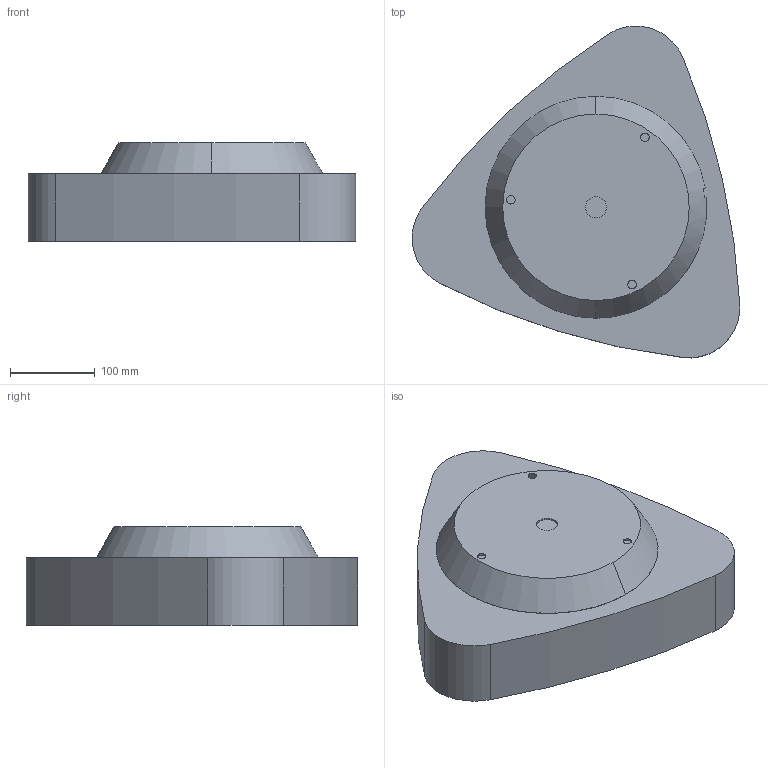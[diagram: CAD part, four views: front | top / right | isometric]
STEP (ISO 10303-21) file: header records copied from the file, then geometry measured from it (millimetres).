
FILE_DESCRIPTION(('Creo Elements/Direct Modeling STEP Export'),'2;1');
FILE_NAME('RON LED DIREKT 400.stp','2016-04-05T13:41:04',(''),(''),'Creo Elements/Direct Modeling STEP processor for AP214 (Solid Model)','Creo Elements/Direct Modeling 18.1A 09-Jun-2012 (C) Parametric Technology GmbH','');
FILE_SCHEMA(('AUTOMOTIVE_DESIGN { 1 0 10303 214 1 1 1 1 }'));
Length unit declared in the file: millimetre
Products named in the file (2): RON_LED; RON-LED-400
Assembly tree (1 placements, depth 2):
  RON-LED-400
    RON_LED
Bounding box: 387.61 x 392.65 x 116.8 mm (x, y, z)
Volume: 8372274.4 mm3; surface area: 441084.6 mm2
Topology: 1 solids, 1 shells, 66 faces, 156 edges, 105 vertices
Faces by surface type: cylinder 38, plane 18, cone 6, bspline 4
Entity records: 3128 total; most frequent: CARTESIAN_POINT 1638, ORIENTED_EDGE 312, DIRECTION 280, EDGE_CURVE 156, AXIS2_PLACEMENT_3D 117, VERTEX_POINT 105, EDGE_LOOP 87, FACE_OUTER_BOUND 66
